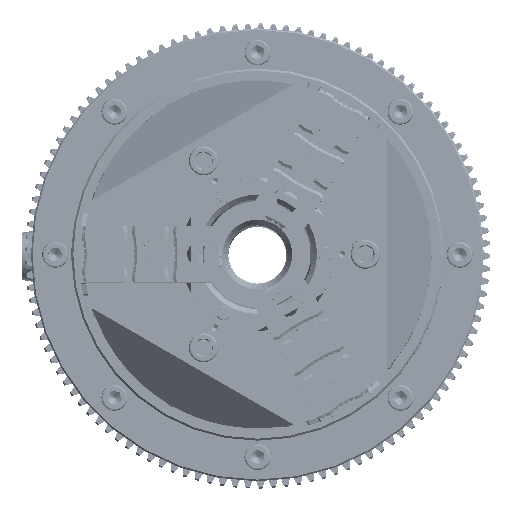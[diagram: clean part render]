
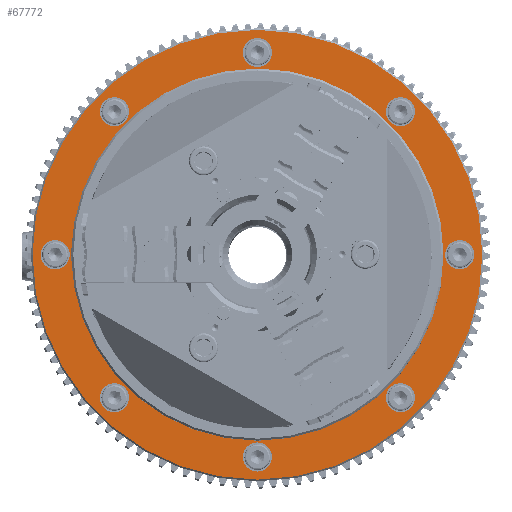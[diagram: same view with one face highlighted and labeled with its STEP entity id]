
A CAD part, top view. The second image highlights one B-rep face of the part: STEP entity #67772.
In plain terms, the highlighted planar face has unit normal (0, 0, 1) as drawn and (0, 0, -1) by its records, which use the part's own axes.
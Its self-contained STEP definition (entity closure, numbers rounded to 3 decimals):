
#4182=FACE_BOUND('',#23003,.T.);
#4183=FACE_BOUND('',#23004,.T.);
#4184=FACE_BOUND('',#23005,.T.);
#4185=FACE_BOUND('',#23006,.T.);
#4186=FACE_BOUND('',#23007,.T.);
#4187=FACE_BOUND('',#23008,.T.);
#4188=FACE_BOUND('',#23009,.T.);
#4189=FACE_BOUND('',#23010,.T.);
#4190=FACE_BOUND('',#23011,.T.);
#4191=FACE_BOUND('',#23012,.T.);
#4192=FACE_BOUND('',#23013,.T.);
#4193=FACE_BOUND('',#23014,.T.);
#4194=FACE_BOUND('',#23015,.T.);
#4195=FACE_BOUND('',#23016,.T.);
#4196=FACE_BOUND('',#23017,.T.);
#4197=FACE_BOUND('',#23018,.T.);
#4198=FACE_BOUND('',#23019,.T.);
#4199=FACE_BOUND('',#23020,.T.);
#5795=PLANE('',#73599);
#18112=FACE_OUTER_BOUND('',#23002,.T.);
#23002=EDGE_LOOP('',(#49191));
#23003=EDGE_LOOP('',(#49192));
#23004=EDGE_LOOP('',(#49193));
#23005=EDGE_LOOP('',(#49194));
#23006=EDGE_LOOP('',(#49195));
#23007=EDGE_LOOP('',(#49196));
#23008=EDGE_LOOP('',(#49197));
#23009=EDGE_LOOP('',(#49198));
#23010=EDGE_LOOP('',(#49199));
#23011=EDGE_LOOP('',(#49200));
#23012=EDGE_LOOP('',(#49201));
#23013=EDGE_LOOP('',(#49202));
#23014=EDGE_LOOP('',(#49203));
#23015=EDGE_LOOP('',(#49204));
#23016=EDGE_LOOP('',(#49205));
#23017=EDGE_LOOP('',(#49206));
#23018=EDGE_LOOP('',(#49207));
#23019=EDGE_LOOP('',(#49208));
#23020=EDGE_LOOP('',(#49209));
#28057=CIRCLE('',#73526,9.);
#28061=CIRCLE('',#73533,9.);
#28065=CIRCLE('',#73540,9.);
#28069=CIRCLE('',#73547,9.);
#28073=CIRCLE('',#73554,9.);
#28077=CIRCLE('',#73561,9.);
#28081=CIRCLE('',#73568,9.);
#28085=CIRCLE('',#73575,9.);
#28101=CIRCLE('',#73598,76.);
#28102=CIRCLE('',#73600,139.);
#28103=CIRCLE('',#73601,4.188);
#28104=CIRCLE('',#73602,4.188);
#28105=CIRCLE('',#73603,4.188);
#28106=CIRCLE('',#73604,4.188);
#28107=CIRCLE('',#73605,4.188);
#28108=CIRCLE('',#73606,4.188);
#28109=CIRCLE('',#73607,4.188);
#28110=CIRCLE('',#73608,4.188);
#28111=CIRCLE('',#73609,4.188);
#32299=VERTEX_POINT('',#105434);
#32303=VERTEX_POINT('',#105445);
#32307=VERTEX_POINT('',#105456);
#32311=VERTEX_POINT('',#105467);
#32315=VERTEX_POINT('',#105478);
#32319=VERTEX_POINT('',#105489);
#32323=VERTEX_POINT('',#105500);
#32327=VERTEX_POINT('',#105511);
#32343=VERTEX_POINT('',#105550);
#32344=VERTEX_POINT('',#105553);
#32345=VERTEX_POINT('',#105555);
#32346=VERTEX_POINT('',#105557);
#32347=VERTEX_POINT('',#105559);
#32348=VERTEX_POINT('',#105561);
#32349=VERTEX_POINT('',#105563);
#32350=VERTEX_POINT('',#105565);
#32351=VERTEX_POINT('',#105567);
#32352=VERTEX_POINT('',#105569);
#32353=VERTEX_POINT('',#105571);
#38954=EDGE_CURVE('',#32299,#32299,#28057,.T.);
#38958=EDGE_CURVE('',#32303,#32303,#28061,.T.);
#38962=EDGE_CURVE('',#32307,#32307,#28065,.T.);
#38966=EDGE_CURVE('',#32311,#32311,#28069,.T.);
#38970=EDGE_CURVE('',#32315,#32315,#28073,.T.);
#38974=EDGE_CURVE('',#32319,#32319,#28077,.T.);
#38978=EDGE_CURVE('',#32323,#32323,#28081,.T.);
#38982=EDGE_CURVE('',#32327,#32327,#28085,.T.);
#38998=EDGE_CURVE('',#32343,#32343,#28101,.T.);
#38999=EDGE_CURVE('',#32344,#32344,#28102,.T.);
#39000=EDGE_CURVE('',#32345,#32345,#28103,.T.);
#39001=EDGE_CURVE('',#32346,#32346,#28104,.T.);
#39002=EDGE_CURVE('',#32347,#32347,#28105,.T.);
#39003=EDGE_CURVE('',#32348,#32348,#28106,.T.);
#39004=EDGE_CURVE('',#32349,#32349,#28107,.T.);
#39005=EDGE_CURVE('',#32350,#32350,#28108,.T.);
#39006=EDGE_CURVE('',#32351,#32351,#28109,.T.);
#39007=EDGE_CURVE('',#32352,#32352,#28110,.T.);
#39008=EDGE_CURVE('',#32353,#32353,#28111,.T.);
#49191=ORIENTED_EDGE('',*,*,#38999,.F.);
#49192=ORIENTED_EDGE('',*,*,#38954,.T.);
#49193=ORIENTED_EDGE('',*,*,#38958,.T.);
#49194=ORIENTED_EDGE('',*,*,#38962,.T.);
#49195=ORIENTED_EDGE('',*,*,#38966,.T.);
#49196=ORIENTED_EDGE('',*,*,#38970,.T.);
#49197=ORIENTED_EDGE('',*,*,#38974,.T.);
#49198=ORIENTED_EDGE('',*,*,#38978,.T.);
#49199=ORIENTED_EDGE('',*,*,#38982,.T.);
#49200=ORIENTED_EDGE('',*,*,#39000,.T.);
#49201=ORIENTED_EDGE('',*,*,#39001,.T.);
#49202=ORIENTED_EDGE('',*,*,#39002,.T.);
#49203=ORIENTED_EDGE('',*,*,#39003,.T.);
#49204=ORIENTED_EDGE('',*,*,#39004,.T.);
#49205=ORIENTED_EDGE('',*,*,#39005,.T.);
#49206=ORIENTED_EDGE('',*,*,#39006,.T.);
#49207=ORIENTED_EDGE('',*,*,#39007,.T.);
#49208=ORIENTED_EDGE('',*,*,#39008,.T.);
#49209=ORIENTED_EDGE('',*,*,#38998,.F.);
#67772=ADVANCED_FACE('',(#18112,#4182,#4183,#4184,#4185,#4186,#4187,#4188,
#4189,#4190,#4191,#4192,#4193,#4194,#4195,#4196,#4197,#4198,#4199),#5795,
 .T.);
#73526=AXIS2_PLACEMENT_3D('',#105435,#83671,#83672);
#73533=AXIS2_PLACEMENT_3D('',#105446,#83685,#83686);
#73540=AXIS2_PLACEMENT_3D('',#105457,#83699,#83700);
#73547=AXIS2_PLACEMENT_3D('',#105468,#83713,#83714);
#73554=AXIS2_PLACEMENT_3D('',#105479,#83727,#83728);
#73561=AXIS2_PLACEMENT_3D('',#105490,#83741,#83742);
#73568=AXIS2_PLACEMENT_3D('',#105501,#83755,#83756);
#73575=AXIS2_PLACEMENT_3D('',#105512,#83769,#83770);
#73598=AXIS2_PLACEMENT_3D('',#105551,#83815,#83816);
#73599=AXIS2_PLACEMENT_3D('',#105552,#83817,#83818);
#73600=AXIS2_PLACEMENT_3D('',#105554,#83819,#83820);
#73601=AXIS2_PLACEMENT_3D('',#105556,#83821,#83822);
#73602=AXIS2_PLACEMENT_3D('',#105558,#83823,#83824);
#73603=AXIS2_PLACEMENT_3D('',#105560,#83825,#83826);
#73604=AXIS2_PLACEMENT_3D('',#105562,#83827,#83828);
#73605=AXIS2_PLACEMENT_3D('',#105564,#83829,#83830);
#73606=AXIS2_PLACEMENT_3D('',#105566,#83831,#83832);
#73607=AXIS2_PLACEMENT_3D('',#105568,#83833,#83834);
#73608=AXIS2_PLACEMENT_3D('',#105570,#83835,#83836);
#73609=AXIS2_PLACEMENT_3D('',#105572,#83837,#83838);
#83671=DIRECTION('center_axis',(0.,0.,1.));
#83672=DIRECTION('ref_axis',(-0.707,-0.707,0.));
#83685=DIRECTION('center_axis',(0.,0.,1.));
#83686=DIRECTION('ref_axis',(0.,-1.,0.));
#83699=DIRECTION('center_axis',(0.,0.,1.));
#83700=DIRECTION('ref_axis',(0.707,-0.707,0.));
#83713=DIRECTION('center_axis',(0.,0.,1.));
#83714=DIRECTION('ref_axis',(1.,0.,0.));
#83727=DIRECTION('center_axis',(0.,0.,1.));
#83728=DIRECTION('ref_axis',(0.707,0.707,0.));
#83741=DIRECTION('center_axis',(0.,0.,1.));
#83742=DIRECTION('ref_axis',(0.,1.,0.));
#83755=DIRECTION('center_axis',(0.,0.,1.));
#83756=DIRECTION('ref_axis',(-0.707,0.707,0.));
#83769=DIRECTION('center_axis',(0.,0.,1.));
#83770=DIRECTION('ref_axis',(-1.,0.,0.));
#83815=DIRECTION('center_axis',(0.,0.,-1.));
#83816=DIRECTION('ref_axis',(0.,-1.,0.));
#83817=DIRECTION('center_axis',(0.,0.,-1.));
#83818=DIRECTION('ref_axis',(-1.,0.,0.));
#83819=DIRECTION('center_axis',(0.,0.,1.));
#83820=DIRECTION('ref_axis',(0.,-1.,0.));
#83821=DIRECTION('center_axis',(0.,0.,1.));
#83822=DIRECTION('ref_axis',(-0.766,-0.643,0.));
#83823=DIRECTION('center_axis',(0.,0.,1.));
#83824=DIRECTION('ref_axis',(-0.174,-0.985,0.));
#83825=DIRECTION('center_axis',(0.,0.,1.));
#83826=DIRECTION('ref_axis',(0.5,-0.866,0.));
#83827=DIRECTION('center_axis',(0.,0.,1.));
#83828=DIRECTION('ref_axis',(0.94,-0.342,0.));
#83829=DIRECTION('center_axis',(0.,0.,1.));
#83830=DIRECTION('ref_axis',(0.94,0.342,0.));
#83831=DIRECTION('center_axis',(0.,0.,1.));
#83832=DIRECTION('ref_axis',(0.5,0.866,0.));
#83833=DIRECTION('center_axis',(0.,0.,1.));
#83834=DIRECTION('ref_axis',(-0.174,0.985,0.));
#83835=DIRECTION('center_axis',(0.,0.,1.));
#83836=DIRECTION('ref_axis',(-0.766,0.643,0.));
#83837=DIRECTION('center_axis',(0.,0.,1.));
#83838=DIRECTION('ref_axis',(-1.,0.,0.));
#105434=CARTESIAN_POINT('',(-94.752,82.024,-324.5));
#105435=CARTESIAN_POINT('Origin',(-88.388,88.388,-324.5));
#105445=CARTESIAN_POINT('',(-125.,-9.,-324.5));
#105446=CARTESIAN_POINT('Origin',(-125.,0.,-324.5));
#105456=CARTESIAN_POINT('',(-82.024,-94.752,-324.5));
#105457=CARTESIAN_POINT('Origin',(-88.388,-88.388,-324.5));
#105467=CARTESIAN_POINT('',(9.,-125.,-324.5));
#105468=CARTESIAN_POINT('Origin',(0.,-125.,-324.5));
#105478=CARTESIAN_POINT('',(94.752,-82.024,-324.5));
#105479=CARTESIAN_POINT('Origin',(88.388,-88.388,-324.5));
#105489=CARTESIAN_POINT('',(125.,9.,-324.5));
#105490=CARTESIAN_POINT('Origin',(125.,0.,-324.5));
#105500=CARTESIAN_POINT('',(82.024,94.752,-324.5));
#105501=CARTESIAN_POINT('Origin',(88.388,88.388,-324.5));
#105511=CARTESIAN_POINT('',(-9.,125.,-324.5));
#105512=CARTESIAN_POINT('Origin',(0.,125.,-324.5));
#105550=CARTESIAN_POINT('',(0.,76.,-324.5));
#105551=CARTESIAN_POINT('Origin',(0.,0.,-324.5));
#105552=CARTESIAN_POINT('Origin',(0.,75.,-324.5));
#105553=CARTESIAN_POINT('',(0.,139.,-324.5));
#105554=CARTESIAN_POINT('Origin',(0.,0.,-324.5));
#105555=CARTESIAN_POINT('',(-67.487,73.912,-324.5));
#105556=CARTESIAN_POINT('Origin',(-64.279,76.604,-324.5));
#105557=CARTESIAN_POINT('',(-99.208,13.24,-324.5));
#105558=CARTESIAN_POINT('Origin',(-98.481,17.365,-324.5));
#105559=CARTESIAN_POINT('',(-84.509,-53.627,-324.5));
#105560=CARTESIAN_POINT('Origin',(-86.603,-50.,-324.5));
#105561=CARTESIAN_POINT('',(-30.267,-95.402,-324.5));
#105562=CARTESIAN_POINT('Origin',(-34.202,-93.969,-324.5));
#105563=CARTESIAN_POINT('',(38.137,-92.537,-324.5));
#105564=CARTESIAN_POINT('Origin',(34.202,-93.969,-324.5));
#105565=CARTESIAN_POINT('',(88.697,-46.373,-324.5));
#105566=CARTESIAN_POINT('Origin',(86.603,-50.,-324.5));
#105567=CARTESIAN_POINT('',(97.754,21.489,-324.5));
#105568=CARTESIAN_POINT('Origin',(98.481,17.365,-324.5));
#105569=CARTESIAN_POINT('',(61.071,79.296,-324.5));
#105570=CARTESIAN_POINT('Origin',(64.279,76.604,-324.5));
#105571=CARTESIAN_POINT('',(-4.188,100.,-324.5));
#105572=CARTESIAN_POINT('Origin',(0.,100.,-324.5));
